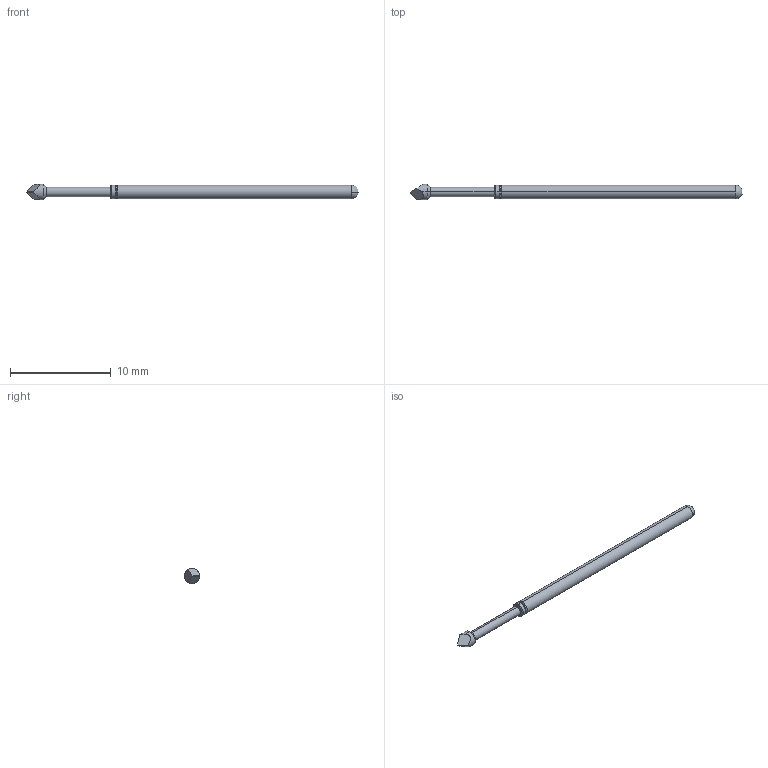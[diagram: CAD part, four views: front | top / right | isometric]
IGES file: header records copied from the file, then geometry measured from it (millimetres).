
Start section: SolidWorks IGES file using analytic representation for surfaces
Global section: file name: Z:\probe solid model mockups\Solidworks models\POGO-25 IGS files\POGO-25T.IGS; native system: SolidWorks 2006 by SolidWorks Corporation; preprocessor: SolidWorks 2006 by SolidWorks Corporation; author: tsakatani; date: 071214.093209; units: inch
Bounding box: 33.02 x 1.52 x 1.52 mm (x, y, z)
Surface area: 133.7 mm2 (no closed solid volume)
Topology: 0 solids, 0 shells, 25 faces, 184 edges, 184 vertices
Faces by surface type: revolution 16, bspline 9
